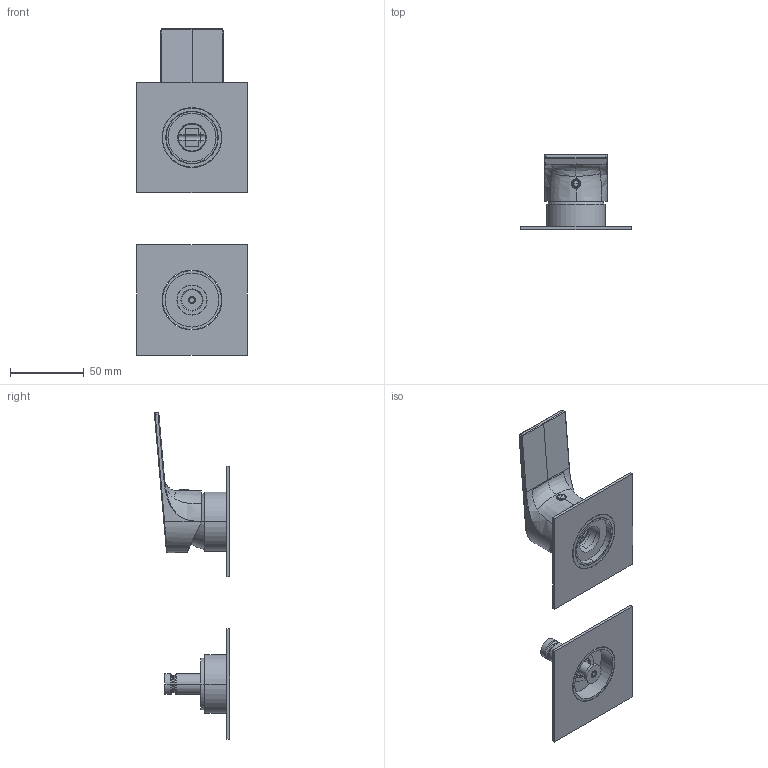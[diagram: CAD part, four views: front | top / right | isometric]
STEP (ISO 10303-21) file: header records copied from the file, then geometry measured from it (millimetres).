
FILE_DESCRIPTION((''),'2;1');
FILE_NAME('3D_SW0001','2024-10-09T15:15:02',('volponeff'),(''),'CREO PARAMETRIC BY PTC INC, 2022014','CREO PARAMETRIC BY PTC INC, 2022014','');
FILE_SCHEMA(('CONFIG_CONTROL_DESIGN'));
Length unit declared in the file: millimetre
Products named in the file (1): 3D_SW0001
Bounding box: 75 x 50.97 x 221.29 mm (x, y, z)
Volume: 67927 mm3; surface area: 61748 mm2
Topology: 8 solids, 8 shells, 726 faces, 2023 edges, 1307 vertices
Faces by surface type: cylinder 298, plane 212, bspline 86, torus 62, cone 58, sphere 8, extrusion 2
Entity records: 61304 total; most frequent: CARTESIAN_POINT 43517, ORIENTED_EDGE 4038, DIRECTION 3292, EDGE_CURVE 2019, VERTEX_POINT 1307, AXIS2_PLACEMENT_3D 1201, VECTOR 890, LINE 888
